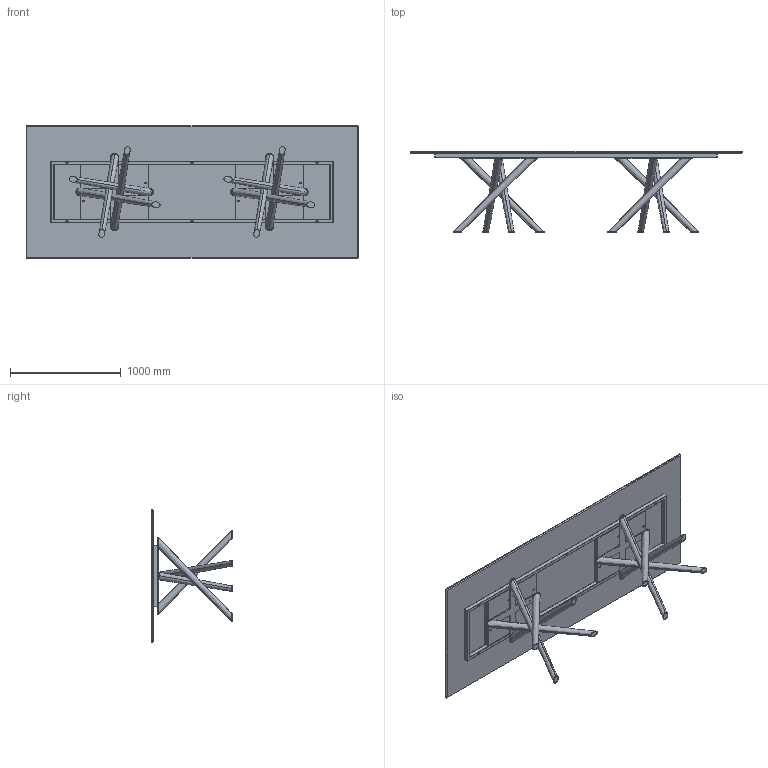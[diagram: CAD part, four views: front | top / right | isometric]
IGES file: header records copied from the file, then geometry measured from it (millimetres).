
Start section: SolidWorks IGES file using analytic representation for surfaces
Global section: file name: Y:\eforma\TECNICO\SOLIDWORKS\E-FORMA\1-TAVOLI\BALY\02 parts\BA24C.IGS; native system: SolidWorks 2022; preprocessor: SolidWorks 2022; author: eforma.tech; date: 240808.082400; units: millimetre
Bounding box: 3000 x 731 x 1200 mm (x, y, z)
Volume: 66689766.8 mm3; surface area: 20884931.2 mm2
Topology: 23 solids, 23 shells, 574 faces, 1410 edges, 876 vertices
Faces by surface type: plane 284, revolution 274, bspline 16
